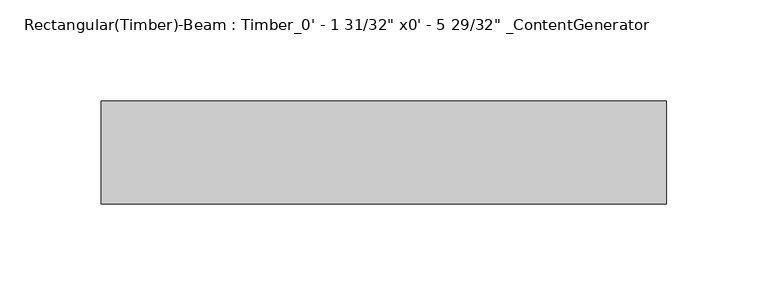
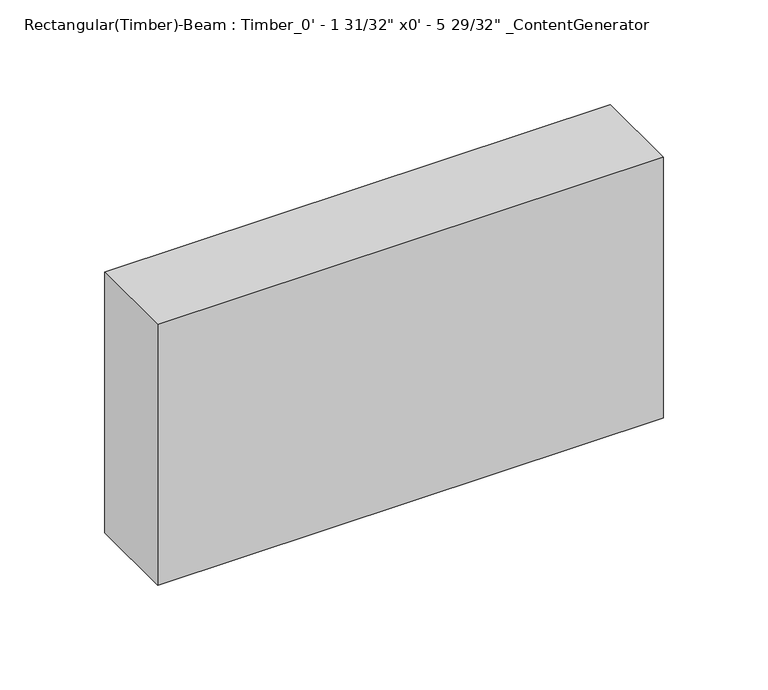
"""IFC4 building model written with IfcOpenShell, lengths in millimetres: beam geometry."""

from ifc_helpers import new_model, si_unit, frame, origin, place, context, project, spatial, polyline, outline, extrude, source, transform, mapped, element, save


def beam_1339ae7a(model_context):
    return source(origin(), model_context, "Body", "SweptSolid", [
        extrude(outline(polyline([(127.0, 25.4), (127.0, -25.4), (-152.43, -25.4), (-152.43, 25.4), (127.0, 25.4)])), frame((0.0, 0.0, -76.2), z_axis=(0.0, 0.0, 1.0), x_axis=(1.0, 0.0, 0.0)), (0.0, 0.0, 1.0), 152.4),
    ])


if __name__ == "__main__":
    model = new_model("IFC4")
    model_context = context("Model", 3, world=origin())
    ifc_project = project(units=[si_unit("LENGTHUNIT", "METRE", prefix="MILLI")], contexts=[model_context])
    site = spatial("IfcSite", under=ifc_project)
    building = spatial("IfcBuilding", under=site)
    placement = place(None, origin())
    beam_shape = beam_1339ae7a(model_context)
    element("IfcBeam", 1, ObjectType="Rectangular(Timber)-Beam : Timber_0' - 1 31/32\" x0' - 5 29/32\" _ContentGenerator", at=placement, inside=building, context=model_context, shape_type="MappedRepresentation", body=[
        mapped(beam_shape, transform((0.0, 0.0, 0.0), x_axis=(1.0, 0.0, 0.0), y_axis=(0.0, 1.0, 0.0), z_axis=(0.0, 0.0, 1.0))),
    ])
    save(model, "model.ifc")
